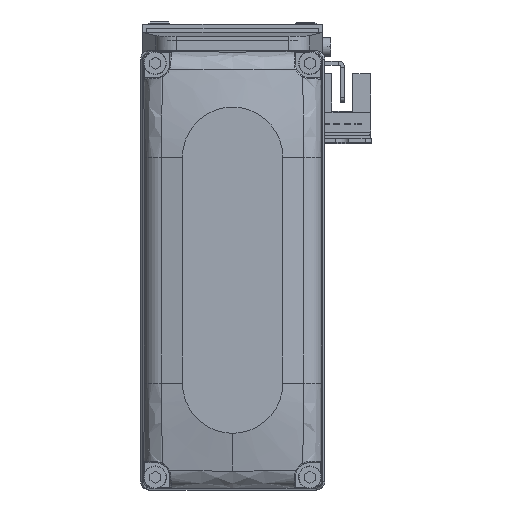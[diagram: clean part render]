
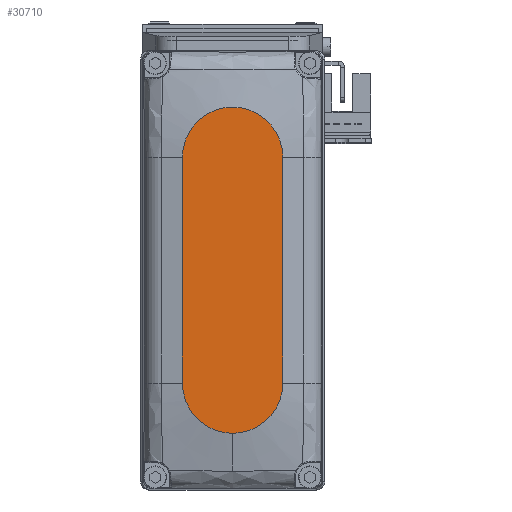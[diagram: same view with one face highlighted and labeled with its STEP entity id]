
A CAD part, top view. The second image highlights one B-rep face of the part: STEP entity #30710.
In plain terms, the highlighted planar face has unit normal (0, 0, 1).
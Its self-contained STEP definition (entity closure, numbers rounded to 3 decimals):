
#1586 = CARTESIAN_POINT ( 'NONE',  ( 0., 0., 25. ) ) ;
#3470 = CARTESIAN_POINT ( 'NONE',  ( 27., 12., 25. ) ) ;
#4122 = CARTESIAN_POINT ( 'NONE',  ( -27., 12., 25. ) ) ;
#7389 = AXIS2_PLACEMENT_3D ( 'NONE', #63919, #10177, #34123 ) ;
#9996 = EDGE_CURVE ( 'NONE', #23007, #37226, #71210, .T. ) ;
#10177 = DIRECTION ( 'NONE',  ( 0., 0., 1. ) ) ;
#10609 = ORIENTED_EDGE ( 'NONE', *, *, #14055, .T. ) ;
#10998 = VERTEX_POINT ( 'NONE', #3470 ) ;
#11835 = DIRECTION ( 'NONE',  ( 1., 0., 0. ) ) ;
#12393 = CIRCLE ( 'NONE', #56262, 12. ) ;
#14055 = EDGE_CURVE ( 'NONE', #37226, #63768, #74097, .T. ) ;
#18715 = CARTESIAN_POINT ( 'NONE',  ( -27., 0., 25. ) ) ;
#19329 = VECTOR ( 'NONE', #44280, 1000. ) ;
#20330 = CARTESIAN_POINT ( 'NONE',  ( -27., -12., 25. ) ) ;
#20918 = EDGE_LOOP ( 'NONE', ( #67081, #41005, #10609, #65958, #56815 ) ) ;
#23007 = VERTEX_POINT ( 'NONE', #59029 ) ;
#25533 = DIRECTION ( 'NONE',  ( 0., 0., 1. ) ) ;
#25891 = CARTESIAN_POINT ( 'NONE',  ( 27., -12., 25. ) ) ;
#27751 = EDGE_CURVE ( 'NONE', #10998, #23007, #57923, .T. ) ;
#28068 = DIRECTION ( 'NONE',  ( -1., 0., 0. ) ) ;
#30710 = ADVANCED_FACE ( 'NONE', ( #31428 ), #55370, .T. ) ;
#31428 = FACE_OUTER_BOUND ( 'NONE', #20918, .T. ) ;
#34123 = DIRECTION ( 'NONE',  ( 1., 0., 0. ) ) ;
#37226 = VERTEX_POINT ( 'NONE', #52634 ) ;
#37398 = AXIS2_PLACEMENT_3D ( 'NONE', #18715, #42684, #66608 ) ;
#41005 = ORIENTED_EDGE ( 'NONE', *, *, #9996, .T. ) ;
#41234 = CIRCLE ( 'NONE', #7389, 12. ) ;
#41679 = CARTESIAN_POINT ( 'NONE',  ( 27., 0., 25. ) ) ;
#42480 = VERTEX_POINT ( 'NONE', #73844 ) ;
#42684 = DIRECTION ( 'NONE',  ( 0., 0., 1. ) ) ;
#44280 = DIRECTION ( 'NONE',  ( 1., 0., 0. ) ) ;
#49263 = VECTOR ( 'NONE', #28068, 1000. ) ;
#49466 = DIRECTION ( 'NONE',  ( 1., 0., 0. ) ) ;
#52634 = CARTESIAN_POINT ( 'NONE',  ( -27., -12., 25. ) ) ;
#54575 = AXIS2_PLACEMENT_3D ( 'NONE', #1586, #25533, #49466 ) ;
#55370 = PLANE ( 'NONE',  #54575 ) ;
#56262 = AXIS2_PLACEMENT_3D ( 'NONE', #41679, #65587, #11835 ) ;
#56815 = ORIENTED_EDGE ( 'NONE', *, *, #67926, .T. ) ;
#57923 = LINE ( 'NONE', #4122, #49263 ) ;
#59029 = CARTESIAN_POINT ( 'NONE',  ( -27., 12., 25. ) ) ;
#63768 = VERTEX_POINT ( 'NONE', #25891 ) ;
#63919 = CARTESIAN_POINT ( 'NONE',  ( 27., 0., 25. ) ) ;
#65587 = DIRECTION ( 'NONE',  ( 0., 0., 1. ) ) ;
#65958 = ORIENTED_EDGE ( 'NONE', *, *, #72441, .T. ) ;
#66608 = DIRECTION ( 'NONE',  ( 1., 0., 0. ) ) ;
#67081 = ORIENTED_EDGE ( 'NONE', *, *, #27751, .T. ) ;
#67926 = EDGE_CURVE ( 'NONE', #42480, #10998, #41234, .T. ) ;
#71210 = CIRCLE ( 'NONE', #37398, 12. ) ;
#72441 = EDGE_CURVE ( 'NONE', #63768, #42480, #12393, .T. ) ;
#73844 = CARTESIAN_POINT ( 'NONE',  ( 39., 0., 25. ) ) ;
#74097 = LINE ( 'NONE', #20330, #19329 ) ;
